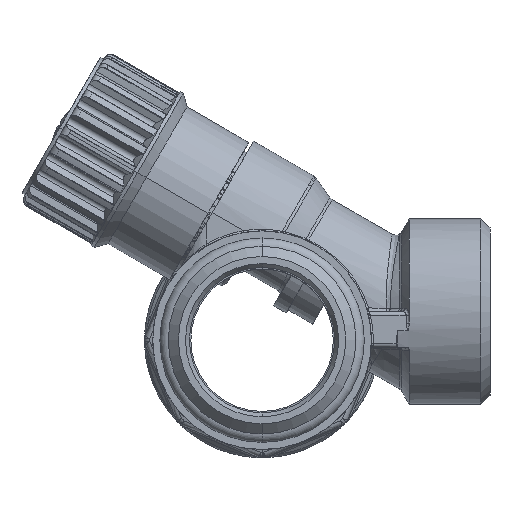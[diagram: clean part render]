
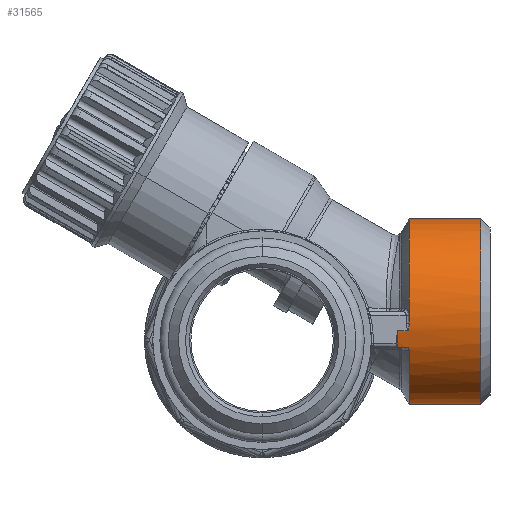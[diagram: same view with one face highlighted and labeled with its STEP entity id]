
A CAD part, left-side view. The second image highlights one B-rep face of the part: STEP entity #31565.
In plain terms, the highlighted cylindrical face has radius 13.025 mm (diameter 26.05 mm), a partial arc.
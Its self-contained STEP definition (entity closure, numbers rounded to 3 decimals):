
#399 = CARTESIAN_POINT ( 'NONE',  ( 25.5, -30.725, 17.025 ) ) ;
#513 = CARTESIAN_POINT ( 'NONE',  ( 12.75, -20.389, 1.338 ) ) ;
#781 = DIRECTION ( 'NONE',  ( 0., -1., 0. ) ) ;
#1871 = CARTESIAN_POINT ( 'NONE',  ( 12.543, -20.665, 2.663 ) ) ;
#2155 = ORIENTED_EDGE ( 'NONE', *, *, #15770, .T. ) ;
#2480 = DIRECTION ( 'NONE',  ( 0., 1., 0. ) ) ;
#3054 = CIRCLE ( 'NONE', #27176, 13.025 ) ;
#3536 = CARTESIAN_POINT ( 'NONE',  ( 12.626, -20.642, 2.013 ) ) ;
#3584 = CARTESIAN_POINT ( 'NONE',  ( 13.473, -20.206, -1. ) ) ;
#4600 = ORIENTED_EDGE ( 'NONE', *, *, #40693, .F. ) ;
#4914 = CARTESIAN_POINT ( 'NONE',  ( 25.5, -75., -9.025 ) ) ;
#5741 = CARTESIAN_POINT ( 'NONE',  ( 12.508, -20.668, 3.066 ) ) ;
#6425 = CARTESIAN_POINT ( 'NONE',  ( 13.487, -20.445, -1.035 ) ) ;
#7156 = DIRECTION ( 'NONE',  ( 0., -1., 0. ) ) ;
#7300 = B_SPLINE_CURVE_WITH_KNOTS ( 'NONE', 3,
 ( #513, #36519, #29420, #42611, #13056, #29838, #10021, #23183, #26636, #3536, #25999, #20368 ),
 .UNSPECIFIED., .F., .F.,
 ( 4, 2, 2, 2, 2, 4 ),
 ( 0., 0., 0., 0., 0.001, 0.001 ),
 .UNSPECIFIED. ) ;
#7839 = EDGE_CURVE ( 'NONE', #42116, #27822, #39042, .T. ) ;
#8422 = ORIENTED_EDGE ( 'NONE', *, *, #12346, .T. ) ;
#8778 = CARTESIAN_POINT ( 'NONE',  ( 12.518, -20.668, 2.932 ) ) ;
#9196 = CARTESIAN_POINT ( 'NONE',  ( 12.5, -20.668, 3.201 ) ) ;
#9592 = CARTESIAN_POINT ( 'NONE',  ( 25.5, -20.668, 4. ) ) ;
#10021 = CARTESIAN_POINT ( 'NONE',  ( 12.717, -20.547, 1.5 ) ) ;
#10645 = CARTESIAN_POINT ( 'NONE',  ( 25.5, -20.668, -9.025 ) ) ;
#11004 = AXIS2_PLACEMENT_3D ( 'NONE', #9592, #2480, #35263 ) ;
#11248 = CARTESIAN_POINT ( 'NONE',  ( 12.75, -19., 1.338 ) ) ;
#11293 = VERTEX_POINT ( 'NONE', #9196 ) ;
#11516 = CIRCLE ( 'NONE', #33522, 13.025 ) ;
#11760 = VECTOR ( 'NONE', #15137, 1000. ) ;
#11831 = DIRECTION ( 'NONE',  ( 0., -1., 0. ) ) ;
#11934 = EDGE_CURVE ( 'NONE', #16051, #42116, #21429, .T. ) ;
#12070 = CARTESIAN_POINT ( 'NONE',  ( 13.473, -20.206, -1. ) ) ;
#12346 = EDGE_CURVE ( 'NONE', #25795, #27822, #28682, .T. ) ;
#12696 = EDGE_CURVE ( 'NONE', #11293, #40109, #29586, .T. ) ;
#12703 = CARTESIAN_POINT ( 'NONE',  ( 13.597, -20.657, -1.289 ) ) ;
#13056 = CARTESIAN_POINT ( 'NONE',  ( 12.738, -20.491, 1.395 ) ) ;
#13845 = EDGE_CURVE ( 'NONE', #29458, #42540, #33237, .T. ) ;
#14181 = DIRECTION ( 'NONE',  ( 0., 0., -1. ) ) ;
#14473 = CARTESIAN_POINT ( 'NONE',  ( 25.5, -20.668, 4. ) ) ;
#15137 = DIRECTION ( 'NONE',  ( 0., -1., 0. ) ) ;
#15349 = CARTESIAN_POINT ( 'NONE',  ( 13.473, -75., -1. ) ) ;
#15770 = EDGE_CURVE ( 'NONE', #16051, #21954, #41379, .T. ) ;
#16051 = VERTEX_POINT ( 'NONE', #10645 ) ;
#16166 = CARTESIAN_POINT ( 'NONE',  ( 13.473, -20.325, -1. ) ) ;
#16397 = VECTOR ( 'NONE', #32515, 1000. ) ;
#17795 = ORIENTED_EDGE ( 'NONE', *, *, #13845, .F. ) ;
#18851 = CARTESIAN_POINT ( 'NONE',  ( 25.5, -30.725, -9.025 ) ) ;
#19679 = EDGE_CURVE ( 'NONE', #42540, #42231, #7300, .T. ) ;
#19876 = CARTESIAN_POINT ( 'NONE',  ( 12.574, -20.658, 2.396 ) ) ;
#20368 = CARTESIAN_POINT ( 'NONE',  ( 12.574, -20.658, 2.396 ) ) ;
#20554 = CARTESIAN_POINT ( 'NONE',  ( 13.473, -19., -1. ) ) ;
#21254 = CARTESIAN_POINT ( 'NONE',  ( 25.5, -30.725, 4. ) ) ;
#21262 = VERTEX_POINT ( 'NONE', #399 ) ;
#21429 = CIRCLE ( 'NONE', #42086, 13.025 ) ;
#21496 = EDGE_LOOP ( 'NONE', ( #21884, #31702, #35623, #22629, #17795, #41708, #8422, #34785, #23381, #2155, #4600 ) ) ;
#21884 = ORIENTED_EDGE ( 'NONE', *, *, #41187, .F. ) ;
#21954 = VERTEX_POINT ( 'NONE', #18851 ) ;
#22196 = CARTESIAN_POINT ( 'NONE',  ( 25.5, -75., 17.025 ) ) ;
#22629 = ORIENTED_EDGE ( 'NONE', *, *, #19679, .F. ) ;
#22830 = CARTESIAN_POINT ( 'NONE',  ( 13.645, -20.668, -1.396 ) ) ;
#23183 = CARTESIAN_POINT ( 'NONE',  ( 12.691, -20.589, 1.636 ) ) ;
#23381 = ORIENTED_EDGE ( 'NONE', *, *, #11934, .F. ) ;
#23657 = FACE_OUTER_BOUND ( 'NONE', #21496, .T. ) ;
#24442 = AXIS2_PLACEMENT_3D ( 'NONE', #36782, #781, #14181 ) ;
#24818 = DIRECTION ( 'NONE',  ( 0., 1., 0. ) ) ;
#25647 = CARTESIAN_POINT ( 'NONE',  ( 13.533, -20.576, -1.143 ) ) ;
#25795 = VERTEX_POINT ( 'NONE', #20554 ) ;
#25999 = CARTESIAN_POINT ( 'NONE',  ( 12.598, -20.651, 2.204 ) ) ;
#26636 = CARTESIAN_POINT ( 'NONE',  ( 12.674, -20.604, 1.73 ) ) ;
#27162 = B_SPLINE_CURVE_WITH_KNOTS ( 'NONE', 3,
 ( #35494, #35702, #1871, #38309, #8778, #5741, #35074 ),
 .UNSPECIFIED., .F., .F.,
 ( 4, 3, 4 ),
 ( 0., 0., 0.001 ),
 .UNSPECIFIED. ) ;
#27176 = AXIS2_PLACEMENT_3D ( 'NONE', #35110, #34678, #41605 ) ;
#27496 = DIRECTION ( 'NONE',  ( 0., 0., -1. ) ) ;
#27822 = VERTEX_POINT ( 'NONE', #3584 ) ;
#28682 = LINE ( 'NONE', #15349, #11760 ) ;
#29420 = CARTESIAN_POINT ( 'NONE',  ( 12.748, -20.437, 1.347 ) ) ;
#29458 = VERTEX_POINT ( 'NONE', #11248 ) ;
#29586 = CIRCLE ( 'NONE', #11004, 13.025 ) ;
#29838 = CARTESIAN_POINT ( 'NONE',  ( 12.726, -20.53, 1.455 ) ) ;
#29898 = VECTOR ( 'NONE', #7156, 1000. ) ;
#30222 = CARTESIAN_POINT ( 'NONE',  ( 12.75, -75., 1.338 ) ) ;
#30287 = DIRECTION ( 'NONE',  ( 0., -1., 0. ) ) ;
#31565 = ADVANCED_FACE ( 'NONE', ( #23657 ), #33764, .T. ) ;
#31672 = LINE ( 'NONE', #22196, #16397 ) ;
#31702 = ORIENTED_EDGE ( 'NONE', *, *, #12696, .F. ) ;
#31981 = EDGE_CURVE ( 'NONE', #29458, #25795, #3054, .T. ) ;
#32510 = CARTESIAN_POINT ( 'NONE',  ( 13.553, -20.611, -1.189 ) ) ;
#32515 = DIRECTION ( 'NONE',  ( 0., -1., 0. ) ) ;
#33237 = LINE ( 'NONE', #30222, #29898 ) ;
#33522 = AXIS2_PLACEMENT_3D ( 'NONE', #21254, #30287, #27496 ) ;
#33764 = CYLINDRICAL_SURFACE ( 'NONE', #24442, 13.025 ) ;
#34496 = DIRECTION ( 'NONE',  ( 0., 0., -1. ) ) ;
#34678 = DIRECTION ( 'NONE',  ( 0., -1., 0. ) ) ;
#34785 = ORIENTED_EDGE ( 'NONE', *, *, #7839, .F. ) ;
#35074 = CARTESIAN_POINT ( 'NONE',  ( 12.5, -20.668, 3.201 ) ) ;
#35110 = CARTESIAN_POINT ( 'NONE',  ( 25.5, -19., 4. ) ) ;
#35263 = DIRECTION ( 'NONE',  ( 0., 0., -1. ) ) ;
#35427 = CARTESIAN_POINT ( 'NONE',  ( 12.75, -20.389, 1.338 ) ) ;
#35494 = CARTESIAN_POINT ( 'NONE',  ( 12.574, -20.658, 2.396 ) ) ;
#35623 = ORIENTED_EDGE ( 'NONE', *, *, #41604, .F. ) ;
#35702 = CARTESIAN_POINT ( 'NONE',  ( 12.558, -20.663, 2.529 ) ) ;
#35952 = CARTESIAN_POINT ( 'NONE',  ( 13.621, -20.668, -1.342 ) ) ;
#36519 = CARTESIAN_POINT ( 'NONE',  ( 12.75, -20.413, 1.338 ) ) ;
#36782 = CARTESIAN_POINT ( 'NONE',  ( 25.5, -75., 4. ) ) ;
#38309 = CARTESIAN_POINT ( 'NONE',  ( 12.531, -20.666, 2.798 ) ) ;
#38555 = CARTESIAN_POINT ( 'NONE',  ( 25.5, -20.668, 17.025 ) ) ;
#38947 = VECTOR ( 'NONE', #11831, 1000. ) ;
#39042 = B_SPLINE_CURVE_WITH_KNOTS ( 'NONE', 3,
 ( #22830, #35952, #12703, #32510, #25647, #6425, #16166, #12070 ),
 .UNSPECIFIED., .F., .F.,
 ( 4, 2, 2, 4 ),
 ( 0., 0., 0., 0.001 ),
 .UNSPECIFIED. ) ;
#39949 = CARTESIAN_POINT ( 'NONE',  ( 13.645, -20.668, -1.396 ) ) ;
#40109 = VERTEX_POINT ( 'NONE', #38555 ) ;
#40693 = EDGE_CURVE ( 'NONE', #21262, #21954, #11516, .T. ) ;
#41187 = EDGE_CURVE ( 'NONE', #40109, #21262, #31672, .T. ) ;
#41379 = LINE ( 'NONE', #4914, #38947 ) ;
#41604 = EDGE_CURVE ( 'NONE', #42231, #11293, #27162, .T. ) ;
#41605 = DIRECTION ( 'NONE',  ( 0., 0., -1. ) ) ;
#41708 = ORIENTED_EDGE ( 'NONE', *, *, #31981, .T. ) ;
#42086 = AXIS2_PLACEMENT_3D ( 'NONE', #14473, #24818, #34496 ) ;
#42116 = VERTEX_POINT ( 'NONE', #39949 ) ;
#42231 = VERTEX_POINT ( 'NONE', #19876 ) ;
#42540 = VERTEX_POINT ( 'NONE', #35427 ) ;
#42611 = CARTESIAN_POINT ( 'NONE',  ( 12.742, -20.476, 1.376 ) ) ;
